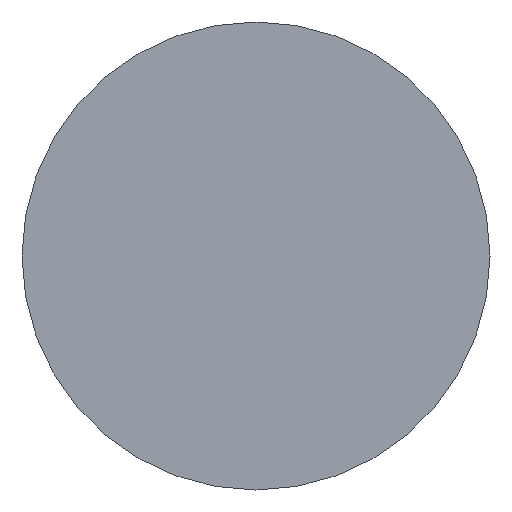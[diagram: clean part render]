
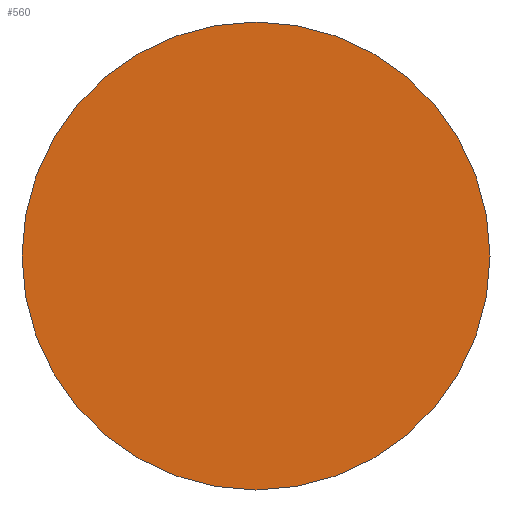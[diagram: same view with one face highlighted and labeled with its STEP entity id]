
A CAD part, left-side view. The second image highlights one B-rep face of the part: STEP entity #560.
In plain terms, the highlighted planar face has unit normal (-1, 0, 0).
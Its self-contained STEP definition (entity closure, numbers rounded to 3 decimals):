
#216=CARTESIAN_POINT('',(25.,0.,0.));
#217=DIRECTION('',(1.,0.,0.));
#218=DIRECTION('',(0.,1.,0.));
#219=AXIS2_PLACEMENT_3D('',#216,#217,#218);
#221=CARTESIAN_POINT('',(25.,0.,0.));
#222=DIRECTION('',(-1.,0.,0.));
#223=DIRECTION('',(0.,1.,0.));
#224=AXIS2_PLACEMENT_3D('',#221,#222,#223);
#294=CARTESIAN_POINT('',(25.,62.5,0.));
#295=CARTESIAN_POINT('',(25.,-62.5,0.));
#296=VERTEX_POINT('',#294);
#297=VERTEX_POINT('',#295);
#551=CARTESIAN_POINT('',(25.,0.,0.));
#552=DIRECTION('',(-1.,0.,0.));
#553=DIRECTION('',(0.,1.,0.));
#554=AXIS2_PLACEMENT_3D('',#551,#552,#553);
#555=PLANE('',#554);
#556=ORIENTED_EDGE('',*,*,#518,.T.);
#557=ORIENTED_EDGE('',*,*,#533,.F.);
#558=EDGE_LOOP('',(#556,#557));
#559=FACE_OUTER_BOUND('',#558,.F.);
#220=CIRCLE('',#219,62.5);
#225=CIRCLE('',#224,62.5);
#518=EDGE_CURVE('',#296,#297,#220,.T.);
#533=EDGE_CURVE('',#296,#297,#225,.T.);
#560=ADVANCED_FACE('',(#559),#555,.T.);
